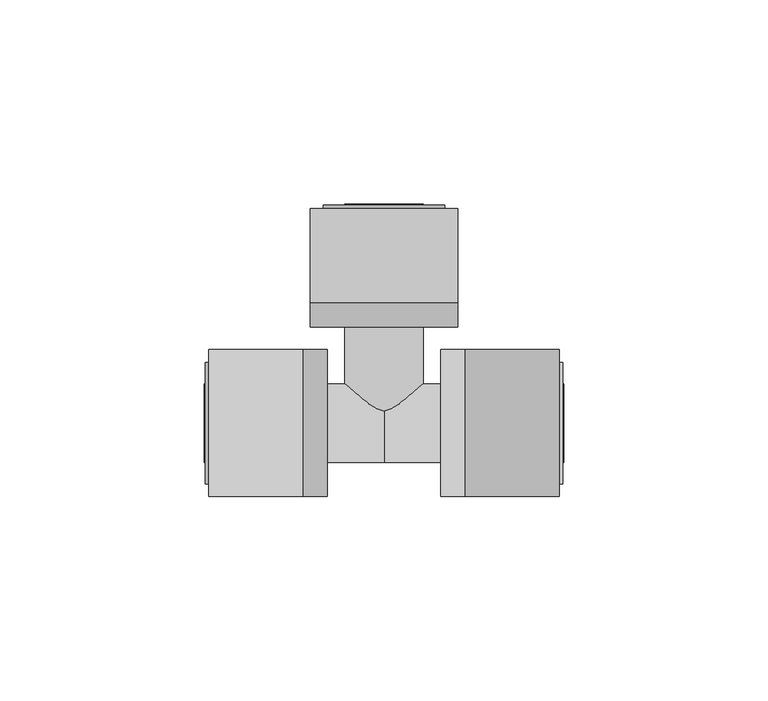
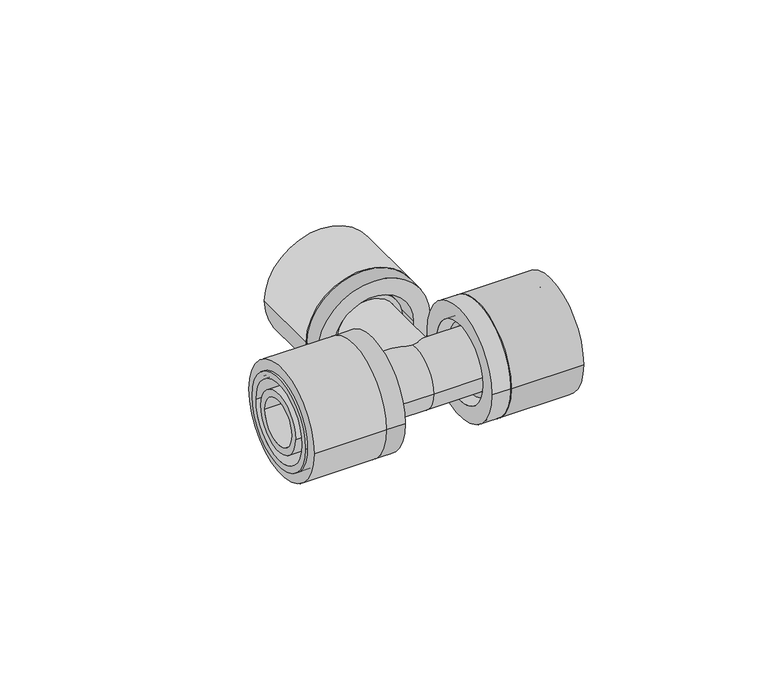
"""IFC4 building model written with IfcOpenShell, lengths in millimetres: pipe fitting geometry, FASTLOC_T-piece_EX+ : FSL T-Piece EX+ AT."""

from ifc_helpers import new_model, si_unit, point, frame, origin, origin_2d, place, context, project, spatial, polyline, circle_curve, trimmed, segment, composite_curve, outline, extrude, source, transform, mapped, element, save
from ifc_brep_helpers import plane_surface, cylinder_surface, revolved_surface, advanced_brep


def pipe_fitting_59775212(model_context):
    return source(origin(), model_context, "Body", "SolidModel", [
        extrude(outline(composite_curve([segment(trimmed(circle_curve(origin_2d(), 18.0), [point((-18.0, 0.0))], [point((18.0, 0.0))], False, "CARTESIAN"), True, "CONTINUOUS"), segment(trimmed(circle_curve(origin_2d(), 18.0), [point((18.0, 0.0))], [point((-18.0, 0.0))], False, "CARTESIAN"), True, "CONTINUOUS")], self_intersect=False), holes=[composite_curve([segment(trimmed(circle_curve(origin_2d(), 13.5), [point((-13.5, 0.0))], [point((13.5, 0.0))], True, "CARTESIAN"), True, "CONTINUOUS"), segment(trimmed(circle_curve(origin_2d(), 13.5), [point((13.5, 0.0))], [point((-13.5, 0.0))], True, "CARTESIAN"), True, "CONTINUOUS")], self_intersect=False)]), frame((19.9, 0.0, 0.0), z_axis=(1.0, 0.0, 0.0), x_axis=(0.0, 1.0, 0.0)), (0.0, 0.0, 1.0), 23.0),
        advanced_brep(
        [(19.9, 18.0, 0.0), (19.9, -18.0, 0.0), (13.9, -18.0, 0.0), (13.9, 18.0, 0.0), (43.7, 14.85, 0.0), (43.7, -14.85, 0.0), (19.9, -14.85, 0.0), (19.9, 14.85, 0.0), (13.9, 12.65, 0.0), (13.9, -12.65, 0.0), (43.7, -12.65, 0.0), (43.7, 12.65, 0.0)],
        [
            (0, 1, circle_curve(frame((19.9, 0.0, 0.0), z_axis=(-1.0, 0.0, 0.0), x_axis=(0.0, -1.0, 0.0)), 18.0)),
            (1, 2),
            (2, 3, circle_curve(frame((13.9, 0.0, 0.0), z_axis=(1.0, 0.0, 0.0), x_axis=(0.0, -1.0, 0.0)), 18.0)),
            (3, 0),
            (4, 5, circle_curve(frame((43.7, 0.0, 0.0), z_axis=(-1.0, 0.0, 0.0), x_axis=(0.0, -1.0, 0.0)), 14.85)),
            (5, 6),
            (6, 7, circle_curve(frame((19.9, 0.0, 0.0), z_axis=(1.0, 0.0, 0.0), x_axis=(0.0, -1.0, 0.0)), 14.85)),
            (7, 4),
            (8, 9, circle_curve(frame((13.9, 0.0, 0.0), z_axis=(-1.0, 0.0, 0.0), x_axis=(0.0, -1.0, 0.0)), 12.65)),
            (9, 10),
            (10, 11, circle_curve(frame((43.7, 0.0, 0.0), z_axis=(1.0, 0.0, 0.0), x_axis=(0.0, -1.0, 0.0)), 12.65)),
            (11, 8),
            (1, 0, circle_curve(frame((19.9, 0.0, 0.0), z_axis=(-1.0, 0.0, 0.0), x_axis=(0.0, 1.0, 0.0)), 18.0)),
            (3, 2, circle_curve(frame((13.9, 0.0, 0.0), z_axis=(1.0, 0.0, 0.0), x_axis=(0.0, 1.0, 0.0)), 18.0)),
            (6, 7, circle_curve(frame((19.9, 0.0, 0.0), z_axis=(-1.0, 0.0, 0.0), x_axis=(0.0, 1.0, 0.0)), 14.85)),
            (5, 4, circle_curve(frame((43.7, 0.0, 0.0), z_axis=(-1.0, 0.0, 0.0), x_axis=(0.0, 1.0, 0.0)), 14.85)),
            (10, 11, circle_curve(frame((43.7, 0.0, 0.0), z_axis=(-1.0, 0.0, 0.0), x_axis=(0.0, 1.0, 0.0)), 12.65)),
            (9, 8, circle_curve(frame((13.9, 0.0, 0.0), z_axis=(-1.0, 0.0, 0.0), x_axis=(0.0, 1.0, 0.0)), 12.65)),
        ],
        [
            cylinder_surface(frame((13.9, 0.0, 0.0), z_axis=(1.0, 0.0, 0.0), x_axis=(0.0, -1.0, 0.0)), 18.0),
            cylinder_surface(frame((13.9, 0.0, 0.0), z_axis=(1.0, 0.0, 0.0), x_axis=(0.0, -1.0, 0.0)), 14.85),
            revolved_surface(polyline([(43.7, -12.65, 0.0), (13.9, -12.65, 0.0)]), (13.9, 0.0, 0.0), (1.0, 0.0, 0.0)),
            cylinder_surface(frame((13.9, 0.0, 0.0), z_axis=(1.0, 0.0, 0.0), x_axis=(0.0, 1.0, 0.0)), 18.0),
            plane_surface(frame((19.9, 0.0, 0.0), z_axis=(1.0, 0.0, 0.0), x_axis=(0.0, 1.0, 0.0))),
            cylinder_surface(frame((13.9, 0.0, 0.0), z_axis=(1.0, 0.0, 0.0), x_axis=(0.0, 1.0, 0.0)), 14.85),
            plane_surface(frame((43.7, 0.0, 0.0), z_axis=(1.0, 0.0, 0.0), x_axis=(0.0, 1.0, 0.0))),
            revolved_surface(polyline([(43.7, 12.65, 0.0), (13.9, 12.65, 0.0)]), (13.9, 0.0, 0.0), (1.0, 0.0, 0.0)),
            plane_surface(frame((13.9, 0.0, 0.0), z_axis=(-1.0, 0.0, 0.0), x_axis=(0.0, 1.0, 0.0))),
        ],
        [
            (0, [[1, 2, 3, 4]]),
            (1, [[5, 6, 7, 8]]),
            (2, [[9, 10, 11, 12]]),
            (3, [[13, -4, 14, -2]]),
            (4, [[-13, -1], [15, -7]]),
            (5, [[16, -8, -15, -6]]),
            (6, [[-16, -5], [17, -11]]),
            (7, [[18, -12, -17, -10]]),
            (8, [[-14, -3], [-18, -9]]),
        ],
    ),
        extrude(outline(composite_curve([segment(trimmed(circle_curve(origin_2d(), 18.0), [point((18.0, 0.0))], [point((-18.0, 0.0))], False, "CARTESIAN"), True, "CONTINUOUS"), segment(trimmed(circle_curve(origin_2d(), 18.0), [point((-18.0, 0.0))], [point((18.0, 0.0))], False, "CARTESIAN"), True, "CONTINUOUS")], self_intersect=False), holes=[composite_curve([segment(trimmed(circle_curve(origin_2d(), 13.5), [point((13.5, 0.0))], [point((-13.5, 0.0))], True, "CARTESIAN"), True, "CONTINUOUS"), segment(trimmed(circle_curve(origin_2d(), 13.5), [point((-13.5, 0.0))], [point((13.5, 0.0))], True, "CARTESIAN"), True, "CONTINUOUS")], self_intersect=False)]), frame((-42.9, 0.0, 0.0), z_axis=(1.0, 0.0, 0.0), x_axis=(0.0, 1.0, 0.0)), (0.0, 0.0, 1.0), 23.0),
        advanced_brep(
        [(-19.9, -18.0, 0.0), (-19.9, 18.0, 0.0), (-13.9, 18.0, 0.0), (-13.9, -18.0, 0.0), (-43.7, -14.85, 0.0), (-43.7, 14.85, 0.0), (-19.9, 14.85, 0.0), (-19.9, -14.85, 0.0), (-13.9, -12.65, 0.0), (-13.9, 12.65, 0.0), (-43.7, 12.65, 0.0), (-43.7, -12.65, 0.0)],
        [
            (0, 1, circle_curve(frame((-19.9, 0.0, 0.0), z_axis=(1.0, 0.0, 0.0), x_axis=(0.0, 1.0, 0.0)), 18.0)),
            (1, 2),
            (2, 3, circle_curve(frame((-13.9, 0.0, 0.0), z_axis=(-1.0, 0.0, 0.0), x_axis=(0.0, 1.0, 0.0)), 18.0)),
            (3, 0),
            (4, 5, circle_curve(frame((-43.7, 0.0, 0.0), z_axis=(1.0, 0.0, 0.0), x_axis=(0.0, 1.0, 0.0)), 14.85)),
            (5, 6),
            (6, 7, circle_curve(frame((-19.9, 0.0, 0.0), z_axis=(-1.0, 0.0, 0.0), x_axis=(0.0, 1.0, 0.0)), 14.85)),
            (7, 4),
            (8, 9, circle_curve(frame((-13.9, 0.0, 0.0), z_axis=(1.0, 0.0, 0.0), x_axis=(0.0, 1.0, 0.0)), 12.65)),
            (9, 10),
            (10, 11, circle_curve(frame((-43.7, 0.0, 0.0), z_axis=(-1.0, 0.0, 0.0), x_axis=(0.0, 1.0, 0.0)), 12.65)),
            (11, 8),
            (1, 0, circle_curve(frame((-19.9, 0.0, 0.0), z_axis=(1.0, 0.0, 0.0), x_axis=(0.0, -1.0, 0.0)), 18.0)),
            (3, 2, circle_curve(frame((-13.9, 0.0, 0.0), z_axis=(-1.0, 0.0, 0.0), x_axis=(0.0, -1.0, 0.0)), 18.0)),
            (6, 7, circle_curve(frame((-19.9, 0.0, 0.0), z_axis=(1.0, 0.0, 0.0), x_axis=(0.0, -1.0, 0.0)), 14.85)),
            (5, 4, circle_curve(frame((-43.7, 0.0, 0.0), z_axis=(1.0, 0.0, 0.0), x_axis=(0.0, -1.0, 0.0)), 14.85)),
            (10, 11, circle_curve(frame((-43.7, 0.0, 0.0), z_axis=(1.0, 0.0, 0.0), x_axis=(0.0, -1.0, 0.0)), 12.65)),
            (9, 8, circle_curve(frame((-13.9, 0.0, 0.0), z_axis=(1.0, 0.0, 0.0), x_axis=(0.0, -1.0, 0.0)), 12.65)),
        ],
        [
            cylinder_surface(frame((-13.9, 0.0, 0.0), z_axis=(-1.0, 0.0, 0.0), x_axis=(0.0, 1.0, 0.0)), 18.0),
            cylinder_surface(frame((-13.9, 0.0, 0.0), z_axis=(-1.0, 0.0, 0.0), x_axis=(0.0, 1.0, 0.0)), 14.85),
            revolved_surface(polyline([(-43.7, 12.65, 0.0), (-13.9, 12.65, 0.0)]), (-13.9, 0.0, 0.0), (-1.0, 0.0, 0.0)),
            cylinder_surface(frame((-13.9, 0.0, 0.0), z_axis=(-1.0, 0.0, 0.0), x_axis=(0.0, -1.0, 0.0)), 18.0),
            plane_surface(frame((-19.9, 0.0, 0.0), z_axis=(-1.0, 0.0, 0.0), x_axis=(0.0, -1.0, 0.0))),
            cylinder_surface(frame((-13.9, 0.0, 0.0), z_axis=(-1.0, 0.0, 0.0), x_axis=(0.0, -1.0, 0.0)), 14.85),
            plane_surface(frame((-43.7, 0.0, 0.0), z_axis=(-1.0, 0.0, 0.0), x_axis=(0.0, -1.0, 0.0))),
            revolved_surface(polyline([(-43.7, -12.65, 0.0), (-13.9, -12.65, 0.0)]), (-13.9, 0.0, 0.0), (-1.0, 0.0, 0.0)),
            plane_surface(frame((-13.9, 0.0, 0.0), z_axis=(1.0, 0.0, 0.0), x_axis=(0.0, -1.0, 0.0))),
        ],
        [
            (0, [[1, 2, 3, 4]]),
            (1, [[5, 6, 7, 8]]),
            (2, [[9, 10, 11, 12]]),
            (3, [[13, -4, 14, -2]]),
            (4, [[-13, -1], [15, -7]]),
            (5, [[16, -8, -15, -6]]),
            (6, [[-16, -5], [17, -11]]),
            (7, [[18, -12, -17, -10]]),
            (8, [[-14, -3], [-18, -9]]),
        ],
    ),
        extrude(outline(composite_curve([segment(trimmed(circle_curve(origin_2d(), 18.0), [point((0.0, 18.0))], [point((0.0, -18.0))], False, "CARTESIAN"), True, "CONTINUOUS"), segment(trimmed(circle_curve(origin_2d(), 18.0), [point((0.0, -18.0))], [point((0.0, 18.0))], False, "CARTESIAN"), True, "CONTINUOUS")], self_intersect=False), holes=[composite_curve([segment(trimmed(circle_curve(origin_2d(), 13.5), [point((0.0, 13.5))], [point((0.0, -13.5))], True, "CARTESIAN"), True, "CONTINUOUS"), segment(trimmed(circle_curve(origin_2d(), 13.5), [point((0.0, -13.5))], [point((0.0, 13.5))], True, "CARTESIAN"), True, "CONTINUOUS")], self_intersect=False)]), frame((0.0, 29.5, 0.0), z_axis=(0.0, 1.0, 0.0), x_axis=(0.0, 0.0, 1.0)), (0.0, 0.0, 1.0), 23.0),
        advanced_brep(
        [(-18.0, 29.5, 0.0), (18.0, 29.5, 0.0), (18.0, 23.5, 0.0), (-18.0, 23.5, 0.0), (-14.85, 53.3, 0.0), (14.85, 53.3, 0.0), (14.85, 29.5, 0.0), (-14.85, 29.5, 0.0), (-12.65, 23.5, 0.0), (12.65, 23.5, 0.0), (12.65, 53.3, 0.0), (-12.65, 53.3, 0.0)],
        [
            (0, 1, circle_curve(frame((0.0, 29.5, 0.0), z_axis=(0.0, -1.0, 0.0), x_axis=(1.0, 0.0, 0.0)), 18.0)),
            (1, 2),
            (2, 3, circle_curve(frame((0.0, 23.5, 0.0), z_axis=(0.0, 1.0, 0.0), x_axis=(1.0, 0.0, 0.0)), 18.0)),
            (3, 0),
            (4, 5, circle_curve(frame((0.0, 53.3, 0.0), z_axis=(0.0, -1.0, 0.0), x_axis=(1.0, 0.0, 0.0)), 14.85)),
            (5, 6),
            (6, 7, circle_curve(frame((0.0, 29.5, 0.0), z_axis=(0.0, 1.0, 0.0), x_axis=(1.0, 0.0, 0.0)), 14.85)),
            (7, 4),
            (8, 9, circle_curve(frame((0.0, 23.5, 0.0), z_axis=(0.0, -1.0, 0.0), x_axis=(1.0, 0.0, 0.0)), 12.65)),
            (9, 10),
            (10, 11, circle_curve(frame((0.0, 53.3, 0.0), z_axis=(0.0, 1.0, 0.0), x_axis=(1.0, 0.0, 0.0)), 12.65)),
            (11, 8),
            (1, 0, circle_curve(frame((0.0, 29.5, 0.0), z_axis=(0.0, -1.0, 0.0), x_axis=(-1.0, 0.0, 0.0)), 18.0)),
            (3, 2, circle_curve(frame((0.0, 23.5, 0.0), z_axis=(0.0, 1.0, 0.0), x_axis=(-1.0, 0.0, 0.0)), 18.0)),
            (6, 7, circle_curve(frame((0.0, 29.5, 0.0), z_axis=(0.0, -1.0, 0.0), x_axis=(-1.0, 0.0, 0.0)), 14.85)),
            (5, 4, circle_curve(frame((0.0, 53.3, 0.0), z_axis=(0.0, -1.0, 0.0), x_axis=(-1.0, 0.0, 0.0)), 14.85)),
            (10, 11, circle_curve(frame((0.0, 53.3, 0.0), z_axis=(0.0, -1.0, 0.0), x_axis=(-1.0, 0.0, 0.0)), 12.65)),
            (9, 8, circle_curve(frame((0.0, 23.5, 0.0), z_axis=(0.0, -1.0, 0.0), x_axis=(-1.0, 0.0, 0.0)), 12.65)),
        ],
        [
            cylinder_surface(frame((0.0, 23.5, 0.0), z_axis=(0.0, 1.0, 0.0), x_axis=(1.0, 0.0, 0.0)), 18.0),
            cylinder_surface(frame((0.0, 23.5, 0.0), z_axis=(0.0, 1.0, 0.0), x_axis=(1.0, 0.0, 0.0)), 14.85),
            revolved_surface(polyline([(12.65, 53.3, 0.0), (12.65, 23.5, 0.0)]), (0.0, 23.5, 0.0), (0.0, 1.0, 0.0)),
            cylinder_surface(frame((0.0, 23.5, 0.0), z_axis=(0.0, 1.0, 0.0), x_axis=(-1.0, 0.0, 0.0)), 18.0),
            plane_surface(frame((0.0, 29.5, 0.0), z_axis=(0.0, 1.0, 0.0), x_axis=(-1.0, 0.0, 0.0))),
            cylinder_surface(frame((0.0, 23.5, 0.0), z_axis=(0.0, 1.0, 0.0), x_axis=(-1.0, 0.0, 0.0)), 14.85),
            plane_surface(frame((0.0, 53.3, 0.0), z_axis=(0.0, 1.0, 0.0), x_axis=(-1.0, 0.0, 0.0))),
            revolved_surface(polyline([(-12.65, 53.3, 0.0), (-12.65, 23.5, 0.0)]), (0.0, 23.5, 0.0), (0.0, 1.0, 0.0)),
            plane_surface(frame((0.0, 23.5, 0.0), z_axis=(0.0, -1.0, 0.0), x_axis=(-1.0, 0.0, 0.0))),
        ],
        [
            (0, [[1, 2, 3, 4]]),
            (1, [[5, 6, 7, 8]]),
            (2, [[9, 10, 11, 12]]),
            (3, [[13, -4, 14, -2]]),
            (4, [[-13, -1], [15, -7]]),
            (5, [[16, -8, -15, -6]]),
            (6, [[-16, -5], [17, -11]]),
            (7, [[18, -12, -17, -10]]),
            (8, [[-14, -3], [-18, -9]]),
        ],
    ),
        advanced_brep(
        [(0.0, 9.6, 0.0), (0.0, -9.6, 0.0), (-17.1, -9.6, 0.0), (-17.1, 9.6, 0.0), (17.1, 9.6, 0.0), (17.1, -9.6, 0.0), (19.9, 11.1, 0.0), (19.9, -11.1, 0.0), (17.1, -11.1, 0.0), (17.1, 11.1, 0.0), (43.9, 9.6, 0.0), (43.9, -9.6, 0.0), (19.9, -9.6, 0.0), (19.9, 9.6, 0.0), (-43.9, 7.35, 0.0), (-43.9, -7.35, 0.0), (43.9, -7.35, 0.0), (43.9, 7.35, 0.0), (-19.9, 9.6, 0.0), (-19.9, -9.6, 0.0), (-43.9, -9.6, 0.0), (-43.9, 9.6, 0.0), (-17.1, 11.1, 0.0), (-17.1, -11.1, 0.0), (-19.9, -11.1, 0.0), (-19.9, 11.1, 0.0)],
        [
            (0, 1, circle_curve(frame((0.0, 0.0, 0.0), z_axis=(-1.0, 0.0, 0.0), x_axis=(0.0, -1.0, 0.0)), 9.6)),
            (1, 2),
            (2, 3, circle_curve(frame((-17.1, 0.0, 0.0), z_axis=(1.0, 0.0, 0.0), x_axis=(0.0, -1.0, 0.0)), 9.6)),
            (3, 0),
            (4, 5, circle_curve(frame((17.1, 0.0, 0.0), z_axis=(-1.0, 0.0, 0.0), x_axis=(0.0, -1.0, 0.0)), 9.6)),
            (5, 1),
            (0, 4),
            (6, 7, circle_curve(frame((19.9, 0.0, 0.0), z_axis=(-1.0, 0.0, 0.0), x_axis=(0.0, -1.0, 0.0)), 11.1)),
            (7, 8),
            (8, 9, circle_curve(frame((17.1, 0.0, 0.0), z_axis=(1.0, 0.0, 0.0), x_axis=(0.0, -1.0, 0.0)), 11.1)),
            (9, 6),
            (10, 11, circle_curve(frame((43.9, 0.0, 0.0), z_axis=(-1.0, 0.0, 0.0), x_axis=(0.0, -1.0, 0.0)), 9.6)),
            (11, 12),
            (12, 13, circle_curve(frame((19.9, 0.0, 0.0), z_axis=(1.0, 0.0, 0.0), x_axis=(0.0, -1.0, 0.0)), 9.6)),
            (13, 10),
            (14, 15, circle_curve(frame((-43.9, 0.0, 0.0), z_axis=(-1.0, 0.0, 0.0), x_axis=(0.0, -1.0, 0.0)), 7.35)),
            (15, 16),
            (16, 17, circle_curve(frame((43.9, 0.0, 0.0), z_axis=(1.0, 0.0, 0.0), x_axis=(0.0, -1.0, 0.0)), 7.35)),
            (17, 14),
            (18, 19, circle_curve(frame((-19.9, 0.0, 0.0), z_axis=(-1.0, 0.0, 0.0), x_axis=(0.0, -1.0, 0.0)), 9.6)),
            (19, 20),
            (20, 21, circle_curve(frame((-43.9, 0.0, 0.0), z_axis=(1.0, 0.0, 0.0), x_axis=(0.0, -1.0, 0.0)), 9.6)),
            (21, 18),
            (22, 23, circle_curve(frame((-17.1, 0.0, 0.0), z_axis=(-1.0, 0.0, 0.0), x_axis=(0.0, -1.0, 0.0)), 11.1)),
            (23, 24),
            (24, 25, circle_curve(frame((-19.9, 0.0, 0.0), z_axis=(1.0, 0.0, 0.0), x_axis=(0.0, -1.0, 0.0)), 11.1)),
            (25, 22),
            (22, 23, circle_curve(frame((-17.1, 0.0, 0.0), z_axis=(1.0, 0.0, 0.0), x_axis=(0.0, 1.0, 0.0)), 11.1)),
            (2, 3, circle_curve(frame((-17.1, 0.0, 0.0), z_axis=(-1.0, 0.0, 0.0), x_axis=(0.0, 1.0, 0.0)), 9.6)),
            (1, 0, circle_curve(frame((0.0, 0.0, 0.0), z_axis=(-1.0, 0.0, 0.0), x_axis=(0.0, 1.0, 0.0)), 9.6)),
            (5, 4, circle_curve(frame((17.1, 0.0, 0.0), z_axis=(-1.0, 0.0, 0.0), x_axis=(0.0, 1.0, 0.0)), 9.6)),
            (8, 9, circle_curve(frame((17.1, 0.0, 0.0), z_axis=(-1.0, 0.0, 0.0), x_axis=(0.0, 1.0, 0.0)), 11.1)),
            (7, 6, circle_curve(frame((19.9, 0.0, 0.0), z_axis=(-1.0, 0.0, 0.0), x_axis=(0.0, 1.0, 0.0)), 11.1)),
            (12, 13, circle_curve(frame((19.9, 0.0, 0.0), z_axis=(-1.0, 0.0, 0.0), x_axis=(0.0, 1.0, 0.0)), 9.6)),
            (11, 10, circle_curve(frame((43.9, 0.0, 0.0), z_axis=(-1.0, 0.0, 0.0), x_axis=(0.0, 1.0, 0.0)), 9.6)),
            (16, 17, circle_curve(frame((43.9, 0.0, 0.0), z_axis=(-1.0, 0.0, 0.0), x_axis=(0.0, 1.0, 0.0)), 7.35)),
            (15, 14, circle_curve(frame((-43.9, 0.0, 0.0), z_axis=(-1.0, 0.0, 0.0), x_axis=(0.0, 1.0, 0.0)), 7.35)),
            (20, 21, circle_curve(frame((-43.9, 0.0, 0.0), z_axis=(-1.0, 0.0, 0.0), x_axis=(0.0, 1.0, 0.0)), 9.6)),
            (19, 18, circle_curve(frame((-19.9, 0.0, 0.0), z_axis=(-1.0, 0.0, 0.0), x_axis=(0.0, 1.0, 0.0)), 9.6)),
            (24, 25, circle_curve(frame((-19.9, 0.0, 0.0), z_axis=(-1.0, 0.0, 0.0), x_axis=(0.0, 1.0, 0.0)), 11.1)),
        ],
        [
            cylinder_surface(frame((0.0, 0.0, 0.0), z_axis=(1.0, 0.0, 0.0), x_axis=(0.0, -1.0, 0.0)), 9.6),
            cylinder_surface(frame((0.0, 0.0, 0.0), z_axis=(1.0, 0.0, 0.0), x_axis=(0.0, -1.0, 0.0)), 11.1),
            revolved_surface(polyline([(43.9, -7.35, 0.0), (-43.9, -7.35, 0.0)]), (0.0, 0.0, 0.0), (1.0, 0.0, 0.0)),
            plane_surface(frame((-17.1, 0.0, 0.0), z_axis=(1.0, 0.0, 0.0), x_axis=(0.0, 1.0, 0.0))),
            cylinder_surface(frame((0.0, 0.0, 0.0), z_axis=(1.0, 0.0, 0.0), x_axis=(0.0, 1.0, 0.0)), 9.6),
            plane_surface(frame((17.1, 0.0, 0.0), z_axis=(-1.0, 0.0, 0.0), x_axis=(0.0, 1.0, 0.0))),
            cylinder_surface(frame((0.0, 0.0, 0.0), z_axis=(1.0, 0.0, 0.0), x_axis=(0.0, 1.0, 0.0)), 11.1),
            plane_surface(frame((19.9, 0.0, 0.0), z_axis=(1.0, 0.0, 0.0), x_axis=(0.0, 1.0, 0.0))),
            plane_surface(frame((43.9, 0.0, 0.0), z_axis=(1.0, 0.0, 0.0), x_axis=(0.0, 1.0, 0.0))),
            revolved_surface(polyline([(43.9, 7.35, 0.0), (-43.9, 7.35, 0.0)]), (0.0, 0.0, 0.0), (1.0, 0.0, 0.0)),
            plane_surface(frame((-43.9, 0.0, 0.0), z_axis=(-1.0, 0.0, 0.0), x_axis=(0.0, 1.0, 0.0))),
            plane_surface(frame((-19.9, 0.0, 0.0), z_axis=(-1.0, 0.0, 0.0), x_axis=(0.0, 1.0, 0.0))),
        ],
        [
            (0, [[1, 2, 3, 4]]),
            (0, [[5, 6, -1, 7]]),
            (1, [[8, 9, 10, 11]]),
            (0, [[12, 13, 14, 15]]),
            (2, [[16, 17, 18, 19]]),
            (0, [[20, 21, 22, 23]]),
            (1, [[24, 25, 26, 27]]),
            (3, [[28, -24], [29, -3]]),
            (4, [[30, -4, -29, -2]]),
            (4, [[31, -7, -30, -6]]),
            (5, [[32, -10], [-31, -5]]),
            (6, [[33, -11, -32, -9]]),
            (7, [[-33, -8], [34, -14]]),
            (4, [[35, -15, -34, -13]]),
            (8, [[-35, -12], [36, -18]]),
            (9, [[37, -19, -36, -17]]),
            (10, [[38, -22], [-37, -16]]),
            (4, [[39, -23, -38, -21]]),
            (11, [[40, -26], [-39, -20]]),
            (6, [[-28, -27, -40, -25]]),
        ],
    ),
        advanced_brep(
        [(7.35, 53.5, 0.0), (-7.35, 53.5, 0.0), (-7.35, 0.0, 0.0), (7.35, 0.0, 0.0), (9.6, 0.0, 0.0), (-9.6, 0.0, 0.0), (-9.6, 26.7, 0.0), (9.6, 26.7, 0.0), (11.1, 26.7, 0.0), (-11.1, 26.7, 0.0), (-11.1, 29.5, 0.0), (11.1, 29.5, 0.0), (9.6, 29.5, 0.0), (-9.6, 29.5, 0.0), (-9.6, 53.5, 0.0), (9.6, 53.5, 0.0)],
        [
            (0, 1, circle_curve(frame((0.0, 53.5, 0.0), z_axis=(0.0, 1.0, 0.0), x_axis=(-1.0, 0.0, 0.0)), 7.35)),
            (1, 2),
            (2, 3, circle_curve(frame((0.0, 0.0, 0.0), z_axis=(0.0, -1.0, 0.0), x_axis=(-1.0, 0.0, 0.0)), 7.35)),
            (3, 0),
            (4, 5, circle_curve(frame((0.0, 0.0, 0.0), z_axis=(0.0, 1.0, 0.0), x_axis=(-1.0, 0.0, 0.0)), 9.6)),
            (5, 6),
            (6, 7, circle_curve(frame((0.0, 26.7, 0.0), z_axis=(0.0, -1.0, 0.0), x_axis=(-1.0, 0.0, 0.0)), 9.6)),
            (7, 4),
            (8, 9, circle_curve(frame((0.0, 26.7, 0.0), z_axis=(0.0, 1.0, 0.0), x_axis=(-1.0, 0.0, 0.0)), 11.1)),
            (9, 10),
            (10, 11, circle_curve(frame((0.0, 29.5, 0.0), z_axis=(0.0, -1.0, 0.0), x_axis=(-1.0, 0.0, 0.0)), 11.1)),
            (11, 8),
            (12, 13, circle_curve(frame((0.0, 29.5, 0.0), z_axis=(0.0, 1.0, 0.0), x_axis=(-1.0, 0.0, 0.0)), 9.6)),
            (13, 14),
            (14, 15, circle_curve(frame((0.0, 53.5, 0.0), z_axis=(0.0, -1.0, 0.0), x_axis=(-1.0, 0.0, 0.0)), 9.6)),
            (15, 12),
            (1, 0, circle_curve(frame((0.0, 53.5, 0.0), z_axis=(0.0, 1.0, 0.0), x_axis=(1.0, 0.0, 0.0)), 7.35)),
            (3, 2, circle_curve(frame((0.0, 0.0, 0.0), z_axis=(0.0, -1.0, 0.0), x_axis=(1.0, 0.0, 0.0)), 7.35)),
            (4, 5, circle_curve(frame((0.0, 0.0, 0.0), z_axis=(0.0, -1.0, 0.0), x_axis=(1.0, 0.0, 0.0)), 9.6)),
            (7, 6, circle_curve(frame((0.0, 26.7, 0.0), z_axis=(0.0, -1.0, 0.0), x_axis=(1.0, 0.0, 0.0)), 9.6)),
            (8, 9, circle_curve(frame((0.0, 26.7, 0.0), z_axis=(0.0, -1.0, 0.0), x_axis=(1.0, 0.0, 0.0)), 11.1)),
            (11, 10, circle_curve(frame((0.0, 29.5, 0.0), z_axis=(0.0, -1.0, 0.0), x_axis=(1.0, 0.0, 0.0)), 11.1)),
            (12, 13, circle_curve(frame((0.0, 29.5, 0.0), z_axis=(0.0, -1.0, 0.0), x_axis=(1.0, 0.0, 0.0)), 9.6)),
            (15, 14, circle_curve(frame((0.0, 53.5, 0.0), z_axis=(0.0, -1.0, 0.0), x_axis=(1.0, 0.0, 0.0)), 9.6)),
        ],
        [
            revolved_surface(polyline([(-7.35, 0.0, 0.0), (-7.35, 53.5, 0.0)]), (0.0, 0.0, 0.0), (0.0, -1.0, 0.0)),
            cylinder_surface(frame((0.0, 0.0, 0.0), z_axis=(0.0, -1.0, 0.0), x_axis=(-1.0, 0.0, 0.0)), 9.6),
            cylinder_surface(frame((0.0, 0.0, 0.0), z_axis=(0.0, -1.0, 0.0), x_axis=(-1.0, 0.0, 0.0)), 11.1),
            revolved_surface(polyline([(7.35, 0.0, 0.0), (7.35, 53.5, 0.0)]), (0.0, 0.0, 0.0), (0.0, -1.0, 0.0)),
            plane_surface(frame((0.0, 0.0, 0.0), z_axis=(0.0, -1.0, 0.0), x_axis=(1.0, 0.0, 0.0))),
            cylinder_surface(frame((0.0, 0.0, 0.0), z_axis=(0.0, -1.0, 0.0), x_axis=(1.0, 0.0, 0.0)), 9.6),
            plane_surface(frame((0.0, 26.7, 0.0), z_axis=(0.0, -1.0, 0.0), x_axis=(1.0, 0.0, 0.0))),
            cylinder_surface(frame((0.0, 0.0, 0.0), z_axis=(0.0, -1.0, 0.0), x_axis=(1.0, 0.0, 0.0)), 11.1),
            plane_surface(frame((0.0, 29.5, 0.0), z_axis=(0.0, 1.0, 0.0), x_axis=(1.0, 0.0, 0.0))),
            plane_surface(frame((0.0, 53.5, 0.0), z_axis=(0.0, 1.0, 0.0), x_axis=(1.0, 0.0, 0.0))),
        ],
        [
            (0, [[1, 2, 3, 4]]),
            (1, [[5, 6, 7, 8]]),
            (2, [[9, 10, 11, 12]]),
            (1, [[13, 14, 15, 16]]),
            (3, [[17, -4, 18, -2]]),
            (4, [[19, -5], [-18, -3]]),
            (5, [[-19, -8, 20, -6]]),
            (6, [[21, -9], [-20, -7]]),
            (7, [[-21, -12, 22, -10]]),
            (8, [[-22, -11], [23, -13]]),
            (5, [[-23, -16, 24, -14]]),
            (9, [[-24, -15], [-17, -1]]),
        ],
    ),
    ])


if __name__ == "__main__":
    model = new_model("IFC4")
    model_context = context("Model", 3, world=origin())
    ifc_project = project(units=[si_unit("LENGTHUNIT", "METRE", prefix="MILLI")], contexts=[model_context])
    site = spatial("IfcSite", under=ifc_project)
    building = spatial("IfcBuilding", under=site)
    placement = place(None, origin())
    pipe_fitting_shape = pipe_fitting_59775212(model_context)
    element("IfcPipeFitting", 1, ObjectType="FASTLOC_T-piece_EX+ : FSL T-Piece EX+ AT", at=placement, inside=building, context=model_context, shape_type="MappedRepresentation", body=[
        mapped(pipe_fitting_shape, transform((0.0, 0.0, 0.0), x_axis=(1.0, 0.0, 0.0), y_axis=(0.0, 1.0, 0.0), z_axis=(0.0, 0.0, 1.0))),
    ])
    save(model, "model.ifc")
